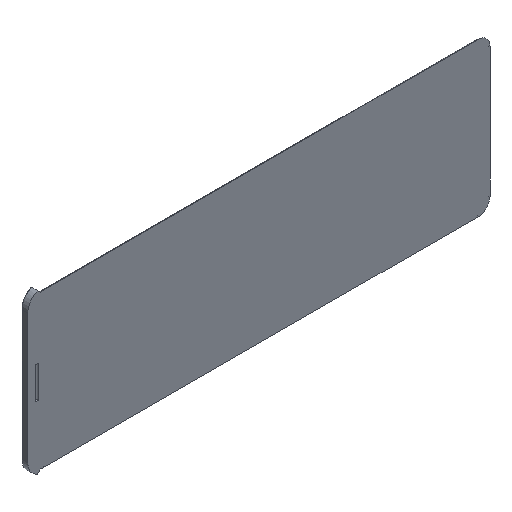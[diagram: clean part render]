
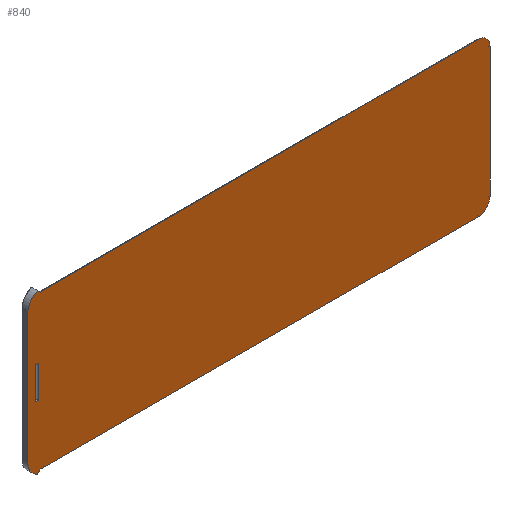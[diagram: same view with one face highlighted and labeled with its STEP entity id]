
A CAD part, isometric view. The second image highlights one B-rep face of the part: STEP entity #840.
In plain terms, the highlighted planar face has unit normal (0, -1, 0).
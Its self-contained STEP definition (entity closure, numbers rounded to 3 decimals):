
#19=FACE_BOUND('',#171,.T.);
#45=CIRCLE('',#893,6.);
#46=CIRCLE('',#896,6.);
#50=CIRCLE('',#905,4.5);
#51=CIRCLE('',#908,4.5);
#54=CIRCLE('',#914,4.5);
#56=CIRCLE('',#918,4.5);
#123=FACE_OUTER_BOUND('',#170,.T.);
#170=EDGE_LOOP('',(#744,#745,#746,#747,#748,#749,#750,#751,#752,#753,#754,
#755));
#171=EDGE_LOOP('',(#756,#757,#758,#759));
#221=LINE('',#1319,#303);
#227=LINE('',#1336,#309);
#229=LINE('',#1346,#311);
#230=LINE('',#1349,#312);
#231=LINE('',#1351,#313);
#232=LINE('',#1354,#314);
#237=LINE('',#1376,#319);
#242=LINE('',#1394,#324);
#246=LINE('',#1406,#328);
#248=LINE('',#1414,#330);
#303=VECTOR('',#1051,10.);
#309=VECTOR('',#1063,10.);
#311=VECTOR('',#1075,10.);
#312=VECTOR('',#1078,10.);
#313=VECTOR('',#1079,10.);
#314=VECTOR('',#1084,10.);
#319=VECTOR('',#1097,10.);
#324=VECTOR('',#1112,10.);
#328=VECTOR('',#1124,10.);
#330=VECTOR('',#1134,10.);
#380=VERTEX_POINT('',#1316);
#381=VERTEX_POINT('',#1318);
#385=VERTEX_POINT('',#1330);
#386=VERTEX_POINT('',#1334);
#387=VERTEX_POINT('',#1338);
#388=VERTEX_POINT('',#1343);
#389=VERTEX_POINT('',#1344);
#390=VERTEX_POINT('',#1348);
#391=VERTEX_POINT('',#1350);
#394=VERTEX_POINT('',#1359);
#395=VERTEX_POINT('',#1361);
#400=VERTEX_POINT('',#1382);
#403=VERTEX_POINT('',#1391);
#405=VERTEX_POINT('',#1397);
#407=VERTEX_POINT('',#1403);
#409=VERTEX_POINT('',#1409);
#477=EDGE_CURVE('',#380,#381,#221,.F.);
#483=EDGE_CURVE('',#385,#380,#45,.T.);
#485=EDGE_CURVE('',#386,#385,#227,.T.);
#487=EDGE_CURVE('',#387,#386,#46,.T.);
#489=EDGE_CURVE('',#389,#388,#229,.T.);
#490=EDGE_CURVE('',#388,#390,#230,.T.);
#491=EDGE_CURVE('',#391,#389,#231,.T.);
#493=EDGE_CURVE('',#390,#391,#232,.T.);
#496=EDGE_CURVE('',#394,#395,#50,.T.);
#502=EDGE_CURVE('',#395,#387,#237,.F.);
#504=EDGE_CURVE('',#381,#400,#51,.T.);
#510=EDGE_CURVE('',#403,#400,#242,.T.);
#513=EDGE_CURVE('',#403,#405,#54,.T.);
#516=EDGE_CURVE('',#407,#405,#246,.T.);
#519=EDGE_CURVE('',#407,#409,#56,.T.);
#520=EDGE_CURVE('',#394,#409,#248,.T.);
#744=ORIENTED_EDGE('',*,*,#496,.F.);
#745=ORIENTED_EDGE('',*,*,#520,.T.);
#746=ORIENTED_EDGE('',*,*,#519,.F.);
#747=ORIENTED_EDGE('',*,*,#516,.T.);
#748=ORIENTED_EDGE('',*,*,#513,.F.);
#749=ORIENTED_EDGE('',*,*,#510,.T.);
#750=ORIENTED_EDGE('',*,*,#504,.F.);
#751=ORIENTED_EDGE('',*,*,#477,.F.);
#752=ORIENTED_EDGE('',*,*,#483,.F.);
#753=ORIENTED_EDGE('',*,*,#485,.F.);
#754=ORIENTED_EDGE('',*,*,#487,.F.);
#755=ORIENTED_EDGE('',*,*,#502,.F.);
#756=ORIENTED_EDGE('',*,*,#489,.T.);
#757=ORIENTED_EDGE('',*,*,#490,.T.);
#758=ORIENTED_EDGE('',*,*,#493,.T.);
#759=ORIENTED_EDGE('',*,*,#491,.T.);
#793=PLANE('',#927);
#840=ADVANCED_FACE('',(#123,#19),#793,.F.);
#893=AXIS2_PLACEMENT_3D('',#1332,#1058,#1059);
#896=AXIS2_PLACEMENT_3D('',#1340,#1067,#1068);
#905=AXIS2_PLACEMENT_3D('',#1362,#1090,#1091);
#908=AXIS2_PLACEMENT_3D('',#1383,#1100,#1101);
#914=AXIS2_PLACEMENT_3D('',#1400,#1118,#1119);
#918=AXIS2_PLACEMENT_3D('',#1412,#1130,#1131);
#927=AXIS2_PLACEMENT_3D('',#1429,#1154,#1155);
#1051=DIRECTION('',(-0.643,0.,0.766));
#1058=DIRECTION('center_axis',(0.,1.,0.));
#1059=DIRECTION('ref_axis',(-1.,0.,0.));
#1063=DIRECTION('',(0.,0.,1.));
#1067=DIRECTION('center_axis',(0.,1.,0.));
#1068=DIRECTION('ref_axis',(-0.362,0.,-0.932));
#1075=DIRECTION('',(1.,0.,0.));
#1078=DIRECTION('',(0.,0.,-1.));
#1079=DIRECTION('',(0.,0.,1.));
#1084=DIRECTION('',(-1.,0.,0.));
#1090=DIRECTION('center_axis',(0.,1.,0.));
#1091=DIRECTION('ref_axis',(0.,0.,-1.));
#1097=DIRECTION('',(0.643,0.,0.766));
#1100=DIRECTION('center_axis',(0.,1.,0.));
#1101=DIRECTION('ref_axis',(-1.,0.,0.));
#1112=DIRECTION('',(-1.,0.,0.));
#1118=DIRECTION('center_axis',(0.,1.,0.));
#1119=DIRECTION('ref_axis',(0.,0.,1.));
#1124=DIRECTION('',(0.,0.,1.));
#1130=DIRECTION('center_axis',(0.,1.,0.));
#1131=DIRECTION('ref_axis',(1.,0.,0.));
#1134=DIRECTION('',(1.,0.,0.));
#1154=DIRECTION('center_axis',(0.,1.,0.));
#1155=DIRECTION('ref_axis',(1.,0.,0.));
#1316=CARTESIAN_POINT('',(0.631,17.5,2.512));
#1318=CARTESIAN_POINT('',(1.653,17.5,1.294));
#1319=CARTESIAN_POINT('',(25.47,17.5,-27.09));
#1330=CARTESIAN_POINT('',(-3.,17.5,-3.));
#1332=CARTESIAN_POINT('Origin',(3.,17.5,-3.));
#1334=CARTESIAN_POINT('',(-3.,17.5,-52.));
#1336=CARTESIAN_POINT('',(-3.,17.5,-52.));
#1338=CARTESIAN_POINT('',(0.631,17.5,-57.512));
#1340=CARTESIAN_POINT('Origin',(3.,17.5,-52.));
#1343=CARTESIAN_POINT('',(1.1,17.5,-21.5));
#1344=CARTESIAN_POINT('',(-0.1,17.5,-21.5));
#1346=CARTESIAN_POINT('',(42.75,17.5,-21.5));
#1348=CARTESIAN_POINT('',(1.1,17.5,-33.5));
#1349=CARTESIAN_POINT('',(1.1,17.5,-27.5));
#1350=CARTESIAN_POINT('',(-0.1,17.5,-33.5));
#1351=CARTESIAN_POINT('',(-0.1,17.5,-27.5));
#1354=CARTESIAN_POINT('',(42.75,17.5,-33.5));
#1359=CARTESIAN_POINT('',(3.,17.5,-56.5));
#1361=CARTESIAN_POINT('',(1.653,17.5,-56.294));
#1362=CARTESIAN_POINT('Origin',(3.,17.5,-52.));
#1376=CARTESIAN_POINT('',(26.558,17.5,-26.614));
#1382=CARTESIAN_POINT('',(3.,17.5,1.5));
#1383=CARTESIAN_POINT('Origin',(3.,17.5,-3.));
#1391=CARTESIAN_POINT('',(167.,17.5,1.5));
#1394=CARTESIAN_POINT('',(167.,17.5,1.5));
#1397=CARTESIAN_POINT('',(171.5,17.5,-3.));
#1400=CARTESIAN_POINT('Origin',(167.,17.5,-3.));
#1403=CARTESIAN_POINT('',(171.5,17.5,-52.));
#1406=CARTESIAN_POINT('',(171.5,17.5,-52.));
#1409=CARTESIAN_POINT('',(167.,17.5,-56.5));
#1412=CARTESIAN_POINT('Origin',(167.,17.5,-52.));
#1414=CARTESIAN_POINT('',(3.,17.5,-56.5));
#1429=CARTESIAN_POINT('Origin',(85.,17.5,-27.5));
